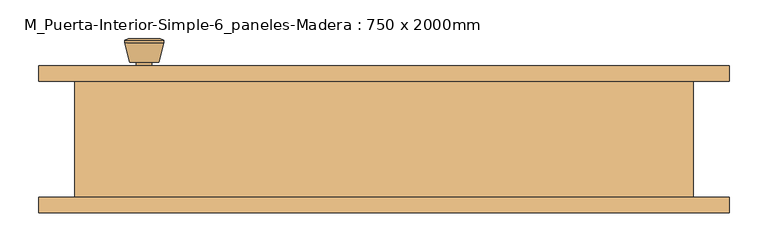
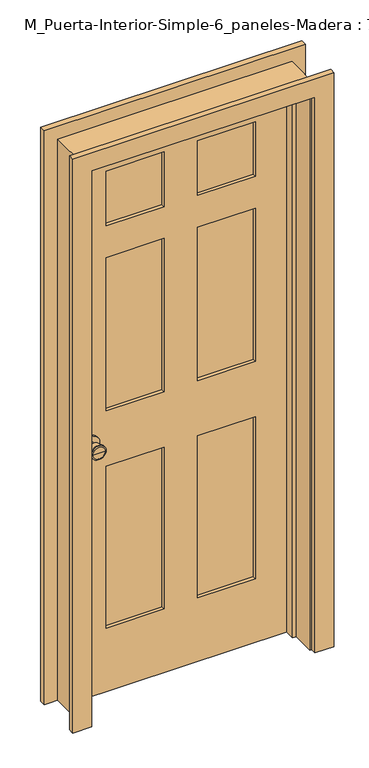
"""IFC4 building model written with IfcOpenShell, lengths in millimetres: door geometry, M_Puerta-Interior-Simple-6_paneles-Madera : 750 x 2000mm."""

from ifc_helpers import new_model, si_unit, point, frame, frame_2d, origin, place, context, project, spatial, polyline, circle_curve, trimmed, segment, composite_curve, outline, extrude, faceted_brep, source, transform, mapped, element, save
from ifc_brep_helpers import plane_surface, cylinder_surface, revolved_surface, advanced_brep


def m_puerta_interior_simple_6_paneles_madera_750_x_2000mm_baa31555(model_context):
    return source(origin(), model_context, "Body", "SolidModel", [
        advanced_brep(
        [(-310.0, 30.825, 914.4), (-300.0, 30.825, 914.4), (-320.0, 30.825, 914.4), (-289.5241324, -18.175, 914.4), (-310.0, -18.175, 914.4), (-330.4758676, -18.175, 914.4), (-285.0, -16.3471319, 914.4), (-335.0, -16.3471319, 914.4), (-285.0, -12.8834537, 914.4), (-335.0, -12.8834537, 914.4), (-291.363764, 11.825, 914.4), (-328.636236, 11.825, 914.4), (-300.0, 11.825, 914.4), (-320.0, 11.825, 914.4)],
        [
            (0, 1),
            (1, 2, circle_curve(frame((-310.0, 30.825, 914.4), z_axis=(0.0, 1.0, 0.0), x_axis=(-1.0, 0.0, 0.0)), 10.0)),
            (2, 0),
            (2, 1, circle_curve(frame((-310.0, 30.825, 914.4), z_axis=(0.0, 1.0, 0.0), x_axis=(-1.0, 0.0, 0.0)), 10.0)),
            (3, 4),
            (4, 5),
            (5, 3, circle_curve(frame((-310.0, -18.175, 914.4), z_axis=(0.0, -1.0, 0.0), x_axis=(-1.0, 0.0, 0.0)), 20.4758676)),
            (3, 5, circle_curve(frame((-310.0, -18.175, 914.4), z_axis=(0.0, -1.0, 0.0), x_axis=(-1.0, 0.0, 0.0)), 20.4758676)),
            (6, 3),
            (5, 7),
            (7, 6, circle_curve(frame((-310.0, -16.3471319, 914.4), z_axis=(0.0, -1.0, 0.0), x_axis=(-1.0, 0.0, 0.0)), 25.0)),
            (6, 7, circle_curve(frame((-310.0, -16.3471319, 914.4), z_axis=(0.0, -1.0, 0.0), x_axis=(-1.0, 0.0, 0.0)), 25.0)),
            (8, 6),
            (7, 9),
            (9, 8, circle_curve(frame((-310.0, -12.8834537, 914.4), z_axis=(0.0, -1.0, 0.0), x_axis=(-1.0, 0.0, 0.0)), 25.0)),
            (8, 9, circle_curve(frame((-310.0, -12.8834537, 914.4), z_axis=(0.0, -1.0, 0.0), x_axis=(-1.0, 0.0, 0.0)), 25.0)),
            (10, 8),
            (9, 11),
            (11, 10, circle_curve(frame((-310.0, 11.825, 914.4), z_axis=(0.0, -1.0, 0.0), x_axis=(-1.0, 0.0, 0.0)), 18.636236)),
            (10, 11, circle_curve(frame((-310.0, 11.825, 914.4), z_axis=(0.0, -1.0, 0.0), x_axis=(-1.0, 0.0, 0.0)), 18.636236)),
            (12, 10),
            (11, 13),
            (13, 12, circle_curve(frame((-310.0, 11.825, 914.4), z_axis=(0.0, -1.0, 0.0), x_axis=(-1.0, 0.0, 0.0)), 10.0)),
            (12, 13, circle_curve(frame((-310.0, 11.825, 914.4), z_axis=(0.0, -1.0, 0.0), x_axis=(-1.0, 0.0, 0.0)), 10.0)),
            (1, 12),
            (13, 2),
        ],
        [
            plane_surface(frame((-310.0, 30.825, 914.4), z_axis=(0.0, 1.0, 0.0), x_axis=(-1.0, 0.0, 0.0))),
            plane_surface(frame((-310.0, -18.175, 914.4), z_axis=(0.0, -1.0, 0.0), x_axis=(-1.0, 0.0, 0.0))),
            revolved_surface(polyline([(-330.4758676, -18.175, 914.4), (-335.0, -16.3471319, 914.4)]), (-310.0, 30.825, 914.4), (0.0, 1.0, 0.0)),
            cylinder_surface(frame((-310.0, 30.825, 914.4), z_axis=(0.0, 1.0, 0.0), x_axis=(-1.0, 0.0, 0.0)), 25.0),
            revolved_surface(polyline([(-335.0, -12.8834537, 914.4), (-328.636236, 11.825, 914.4)]), (-310.0, 30.825, 914.4), (0.0, 1.0, 0.0)),
            plane_surface(frame((-310.0, 11.825, 914.4), z_axis=(0.0, 1.0, 0.0), x_axis=(-1.0, 0.0, 0.0))),
            cylinder_surface(frame((-310.0, 30.825, 914.4), z_axis=(0.0, 1.0, 0.0), x_axis=(-1.0, 0.0, 0.0)), 10.0),
        ],
        [
            (0, [[1, 2, 3]]),
            (0, [[-3, 4, -1]]),
            (1, [[5, 6, 7]]),
            (1, [[-6, -5, 8]]),
            (2, [[9, -7, 10, 11]]),
            (2, [[-10, -8, -9, 12]]),
            (3, [[13, -11, 14, 15]]),
            (3, [[-14, -12, -13, 16]]),
            (4, [[17, -15, 18, 19]]),
            (4, [[-18, -16, -17, 20]]),
            (5, [[21, -19, 22, 23]]),
            (5, [[-22, -20, -21, 24]]),
            (6, [[25, -23, 26, -2]]),
            (6, [[-26, -24, -25, -4]]),
        ],
    ),
        extrude(outline(composite_curve([segment(trimmed(circle_curve(frame_2d((914.4, -310.0)), 30.0), [point((914.4, -340.0))], [point((914.4, -280.0))], False, "CARTESIAN"), True, "CONTINUOUS"), segment(trimmed(circle_curve(frame_2d((914.4, -310.0)), 30.0), [point((914.4, -280.0))], [point((914.4, -340.0))], False, "CARTESIAN"), True, "CONTINUOUS")], self_intersect=False)), frame((0.0, 30.825, 0.0), z_axis=(0.0, 1.0, 0.0), x_axis=(0.0, 0.0, 1.0)), (0.0, 0.0, 1.0), 6.0),
        advanced_brep(
        [(-310.0, 77.825, 914.4), (-320.0, 77.825, 914.4), (-300.0, 77.825, 914.4), (-289.5241324, 126.825, 914.4), (-330.4758676, 126.825, 914.4), (-310.0, 126.825, 914.4), (-285.0, 124.9971319, 914.4), (-335.0, 124.9971319, 914.4), (-285.0, 121.5334537, 914.4), (-335.0, 121.5334537, 914.4), (-291.363764, 96.825, 914.4), (-328.636236, 96.825, 914.4), (-300.0, 96.825, 914.4), (-320.0, 96.825, 914.4)],
        [
            (0, 1),
            (1, 2, circle_curve(frame((-310.0, 77.825, 914.4), z_axis=(0.0, -1.0, 0.0), x_axis=(-1.0, 0.0, 0.0)), 10.0)),
            (2, 0),
            (2, 1, circle_curve(frame((-310.0, 77.825, 914.4), z_axis=(0.0, -1.0, 0.0), x_axis=(-1.0, 0.0, 0.0)), 10.0)),
            (3, 4, circle_curve(frame((-310.0, 126.825, 914.4), z_axis=(0.0, 1.0, 0.0), x_axis=(-1.0, 0.0, 0.0)), 20.4758676)),
            (4, 5),
            (5, 3),
            (4, 3, circle_curve(frame((-310.0, 126.825, 914.4), z_axis=(0.0, 1.0, 0.0), x_axis=(-1.0, 0.0, 0.0)), 20.4758676)),
            (6, 7, circle_curve(frame((-310.0, 124.9971319, 914.4), z_axis=(0.0, 1.0, 0.0), x_axis=(-1.0, 0.0, 0.0)), 25.0)),
            (7, 4),
            (3, 6),
            (7, 6, circle_curve(frame((-310.0, 124.9971319, 914.4), z_axis=(0.0, 1.0, 0.0), x_axis=(-1.0, 0.0, 0.0)), 25.0)),
            (8, 9, circle_curve(frame((-310.0, 121.5334537, 914.4), z_axis=(0.0, 1.0, 0.0), x_axis=(-1.0, 0.0, 0.0)), 25.0)),
            (9, 7),
            (6, 8),
            (9, 8, circle_curve(frame((-310.0, 121.5334537, 914.4), z_axis=(0.0, 1.0, 0.0), x_axis=(-1.0, 0.0, 0.0)), 25.0)),
            (10, 11, circle_curve(frame((-310.0, 96.825, 914.4), z_axis=(0.0, 1.0, 0.0), x_axis=(-1.0, 0.0, 0.0)), 18.636236)),
            (11, 9),
            (8, 10),
            (11, 10, circle_curve(frame((-310.0, 96.825, 914.4), z_axis=(0.0, 1.0, 0.0), x_axis=(-1.0, 0.0, 0.0)), 18.636236)),
            (12, 13, circle_curve(frame((-310.0, 96.825, 914.4), z_axis=(0.0, 1.0, 0.0), x_axis=(-1.0, 0.0, 0.0)), 10.0)),
            (13, 11),
            (10, 12),
            (13, 12, circle_curve(frame((-310.0, 96.825, 914.4), z_axis=(0.0, 1.0, 0.0), x_axis=(-1.0, 0.0, 0.0)), 10.0)),
            (1, 13),
            (12, 2),
        ],
        [
            plane_surface(frame((-310.0, 77.825, 914.4), z_axis=(0.0, -1.0, 0.0), x_axis=(-1.0, 0.0, 0.0))),
            plane_surface(frame((-310.0, 126.825, 914.4), z_axis=(0.0, 1.0, 0.0), x_axis=(-1.0, 0.0, 0.0))),
            revolved_surface(polyline([(-330.4758676, 126.825, 914.4), (-335.0, 124.9971319, 914.4)]), (-310.0, 77.825, 914.4), (0.0, -1.0, 0.0)),
            cylinder_surface(frame((-310.0, 77.825, 914.4), z_axis=(0.0, -1.0, 0.0), x_axis=(-1.0, 0.0, 0.0)), 25.0),
            revolved_surface(polyline([(-335.0, 121.5334537, 914.4), (-328.636236, 96.825, 914.4)]), (-310.0, 77.825, 914.4), (0.0, -1.0, 0.0)),
            plane_surface(frame((-310.0, 96.825, 914.4), z_axis=(0.0, -1.0, 0.0), x_axis=(-1.0, 0.0, 0.0))),
            cylinder_surface(frame((-310.0, 77.825, 914.4), z_axis=(0.0, -1.0, 0.0), x_axis=(-1.0, 0.0, 0.0)), 10.0),
        ],
        [
            (0, [[1, 2, 3]]),
            (0, [[-3, 4, -1]]),
            (1, [[5, 6, 7]]),
            (1, [[8, -7, -6]]),
            (2, [[9, 10, -5, 11]]),
            (2, [[12, -11, -8, -10]]),
            (3, [[13, 14, -9, 15]]),
            (3, [[16, -15, -12, -14]]),
            (4, [[17, 18, -13, 19]]),
            (4, [[20, -19, -16, -18]]),
            (5, [[21, 22, -17, 23]]),
            (5, [[24, -23, -20, -22]]),
            (6, [[-2, 25, -21, 26]]),
            (6, [[-4, -26, -24, -25]]),
        ],
    ),
        extrude(outline(composite_curve([segment(trimmed(circle_curve(frame_2d((914.4, -310.0)), 30.0), [point((914.4, -340.0))], [point((914.4, -280.0))], False, "CARTESIAN"), True, "CONTINUOUS"), segment(trimmed(circle_curve(frame_2d((914.4, -310.0)), 30.0), [point((914.4, -280.0))], [point((914.4, -340.0))], False, "CARTESIAN"), True, "CONTINUOUS")], self_intersect=False)), frame((0.0, 71.825, 0.0), z_axis=(0.0, 1.0, 0.0), x_axis=(0.0, 0.0, 1.0)), (0.0, 0.0, 1.0), 6.0),
        faceted_brep([(400.0, 71.825, 0.0), (400.0, -78.175, 0.0), (375.0, -78.175, 0.0), (375.0, 1.9, 0.0), (362.3, 1.9, 0.0), (362.3, 36.825, 0.0), (375.0, 36.825, 0.0), (375.0, 71.825, 0.0), (400.0, 71.825, 2025.0), (400.0, -78.175, 2025.0), (-400.0, -78.175, 2025.0), (-400.0, -78.175, 0.0), (-375.0, -78.175, 0.0), (-375.0, -78.175, 2000.0), (375.0, -78.175, 2000.0), (375.0, 1.9, 2000.0), (-375.0, 1.9, 2000.0), (-375.0, 1.9, 0.0), (-362.3, 1.9, 0.0), (-362.3, 1.9, 1987.3), (362.3, 1.9, 1987.3), (362.3, 36.825, 1987.3), (-362.3, 36.825, 1987.3), (-362.3, 36.825, 0.0), (-375.0, 36.825, 0.0), (-375.0, 36.825, 2000.0), (375.0, 36.825, 2000.0), (375.0, 71.825, 2000.0), (-375.0, 71.825, 2000.0), (-375.0, 71.825, 0.0), (-400.0, 71.825, 0.0), (-400.0, 71.825, 2025.0)], [[[0, 1, 2, 3, 4, 5, 6, 7]], [[1, 0, 8, 9]], [[2, 1, 9, 10, 11, 12, 13, 14]], [[3, 2, 14, 15]], [[4, 3, 15, 16, 17, 18, 19, 20]], [[5, 4, 20, 21]], [[6, 5, 21, 22, 23, 24, 25, 26]], [[7, 6, 26, 27]], [[0, 7, 27, 28, 29, 30, 31, 8]], [[9, 8, 31, 10]], [[15, 14, 13, 16]], [[21, 20, 19, 22]], [[27, 26, 25, 28]], [[30, 29, 24, 23, 18, 17, 12, 11]], [[10, 31, 30, 11]], [[16, 13, 12, 17]], [[22, 19, 18, 23]], [[28, 25, 24, 29]]]),
        extrude(outline(polyline([(2000.0, -375.0), (0.0, -375.0), (0.0, 375.0), (2000.0, 375.0), (2000.0, -375.0)]), holes=[polyline([(1880.0, 57.5), (1880.0, 255.0), (1682.5, 255.0), (1682.5, 57.5), (1880.0, 57.5)]), polyline([(1567.5, 255.0), (1014.4, 255.0), (1014.4, 57.5), (1567.5, 57.5), (1567.5, 255.0)]), polyline([(1014.4, -57.5), (1014.4, -255.0), (1567.5, -255.0), (1567.5, -57.5), (1014.4, -57.5)]), polyline([(1682.5, -255.0), (1880.0, -255.0), (1880.0, -57.5), (1682.5, -57.5), (1682.5, -255.0)]), polyline([(814.4, 57.5), (814.4, 255.0), (230.0, 255.0), (230.0, 57.5), (814.4, 57.5)]), polyline([(230.0, -57.5), (230.0, -255.0), (814.4, -255.0), (814.4, -57.5), (230.0, -57.5)])]), frame((0.0, 36.825, 0.0), z_axis=(0.0, 1.0, 0.0), x_axis=(0.0, 0.0, 1.0)), (0.0, 0.0, 1.0), 35.0),
        extrude(outline(polyline([(255.0, 48.4916667), (57.5, 48.4916667), (57.5, 60.1583333), (255.0, 60.1583333), (255.0, 48.4916667)])), frame((0.0, 0.0, 1682.5), z_axis=(0.0, 0.0, 1.0), x_axis=(1.0, 0.0, 0.0)), (0.0, 0.0, 1.0), 197.5),
        extrude(outline(polyline([(255.0, 48.4916667), (57.5, 48.4916667), (57.5, 60.1583333), (255.0, 60.1583333), (255.0, 48.4916667)])), frame((0.0, 0.0, 1014.4), z_axis=(0.0, 0.0, 1.0), x_axis=(1.0, 0.0, 0.0)), (0.0, 0.0, 1.0), 553.1),
        extrude(outline(polyline([(-57.5, 48.4916667), (-255.0, 48.4916667), (-255.0, 60.1583333), (-57.5, 60.1583333), (-57.5, 48.4916667)])), frame((0.0, 0.0, 1014.4), z_axis=(0.0, 0.0, 1.0), x_axis=(1.0, 0.0, 0.0)), (0.0, 0.0, 1.0), 553.1),
        extrude(outline(polyline([(-57.5, 48.4916667), (-255.0, 48.4916667), (-255.0, 60.1583333), (-57.5, 60.1583333), (-57.5, 48.4916667)])), frame((0.0, 0.0, 1682.5), z_axis=(0.0, 0.0, 1.0), x_axis=(1.0, 0.0, 0.0)), (0.0, 0.0, 1.0), 197.5),
        extrude(outline(polyline([(255.0, 48.4916667), (57.5, 48.4916667), (57.5, 60.1583333), (255.0, 60.1583333), (255.0, 48.4916667)])), frame((0.0, 0.0, 230.0), z_axis=(0.0, 0.0, 1.0), x_axis=(1.0, 0.0, 0.0)), (0.0, 0.0, 1.0), 584.4),
        extrude(outline(polyline([(-57.5, 48.4916667), (-255.0, 48.4916667), (-255.0, 60.1583333), (-57.5, 60.1583333), (-57.5, 48.4916667)])), frame((0.0, 0.0, 230.0), z_axis=(0.0, 0.0, 1.0), x_axis=(1.0, 0.0, 0.0)), (0.0, 0.0, 1.0), 584.4),
        extrude(outline(polyline([(0.0, 381.35), (0.0, 446.35), (2071.35, 446.35), (2071.35, -446.35), (0.0, -446.35), (0.0, -381.35), (2006.35, -381.35), (2006.35, 381.35), (0.0, 381.35)])), frame((0.0, 71.825, 0.0), z_axis=(0.0, 1.0, 0.0), x_axis=(0.0, 0.0, 1.0)), (0.0, 0.0, 1.0), 20.0),
        extrude(outline(polyline([(0.0, 381.35), (0.0, 446.35), (2071.35, 446.35), (2071.35, -446.35), (0.0, -446.35), (0.0, -381.35), (2006.35, -381.35), (2006.35, 381.35), (0.0, 381.35)])), frame((0.0, -98.175, 0.0), z_axis=(0.0, 1.0, 0.0), x_axis=(0.0, 0.0, 1.0)), (0.0, 0.0, 1.0), 20.0),
    ])


if __name__ == "__main__":
    model = new_model("IFC4")
    model_context = context("Model", 3, world=origin())
    ifc_project = project(units=[si_unit("LENGTHUNIT", "METRE", prefix="MILLI")], contexts=[model_context])
    site = spatial("IfcSite", under=ifc_project)
    building = spatial("IfcBuilding", under=site)
    placement = place(None, origin())
    m_puerta_interior_simple_6_paneles_madera_750_x_2000mm_shape = m_puerta_interior_simple_6_paneles_madera_750_x_2000mm_baa31555(model_context)
    element("IfcDoor", 1, ObjectType="M_Puerta-Interior-Simple-6_paneles-Madera : 750 x 2000mm", at=placement, inside=building, context=model_context, shape_type="MappedRepresentation", body=[
        mapped(m_puerta_interior_simple_6_paneles_madera_750_x_2000mm_shape, transform((0.0, 0.0, 0.0), x_axis=(1.0, 0.0, 0.0), y_axis=(0.0, 1.0, 0.0), z_axis=(0.0, 0.0, 1.0))),
    ])
    save(model, "model.ifc")
